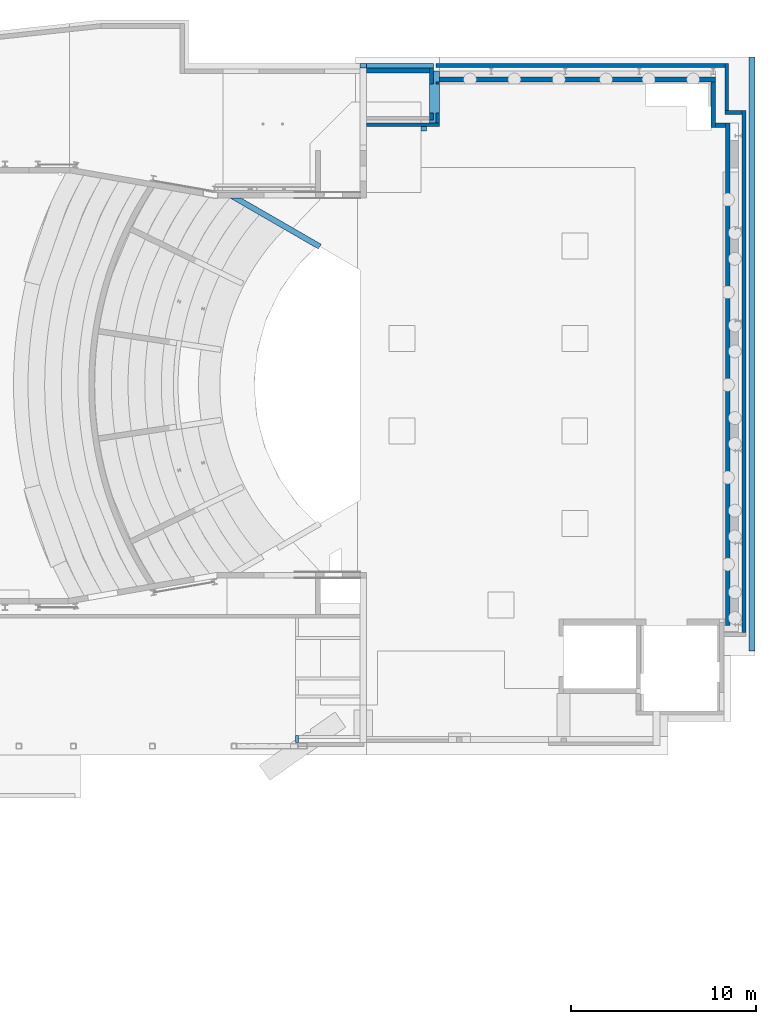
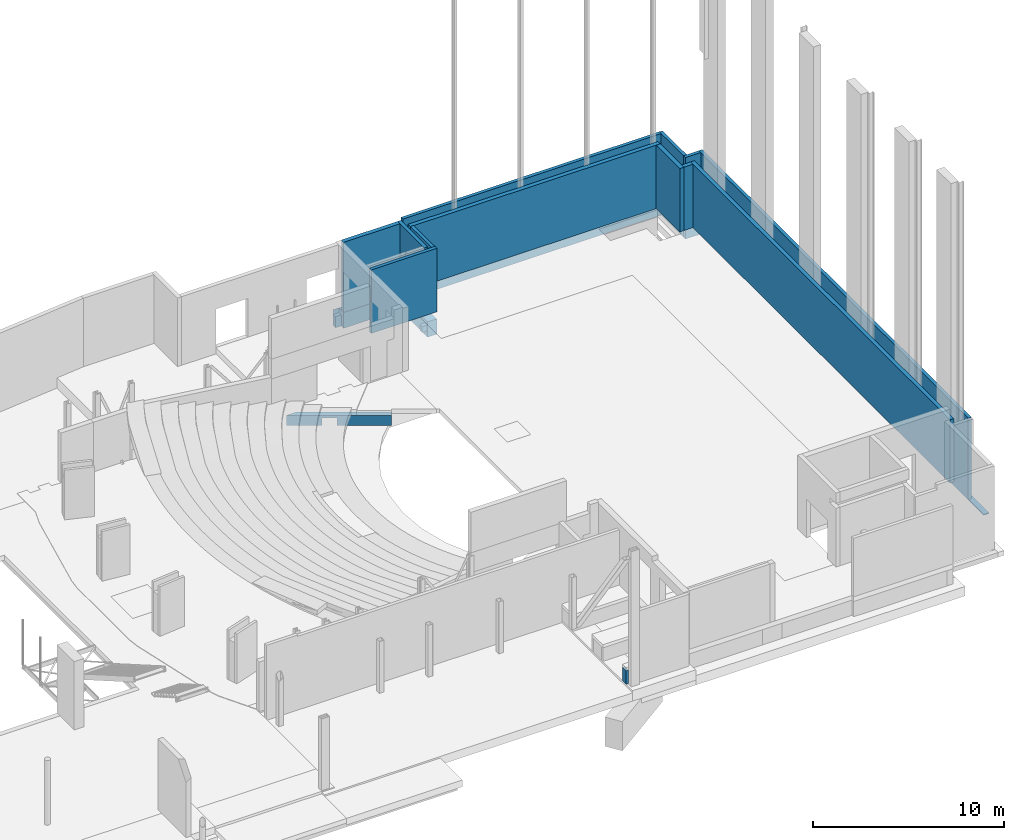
# One storey, part 28 of 34: 18 walls, 1 opening.
"""IFC2X3 building model written with IfcOpenShell, lengths in millimetres."""

from ifc_helpers import new_model, entity, si_unit, converted_unit, derived_unit, direction, frame, frame_2d, origin, place, context, subcontext, project, spatial, polyline, rectangle, extrude, clip, bounded_halfspace, faceted_brep, material, layer, layer_set, layer_usage, type_object, element, save


model = new_model("IFC2X3")

# Units and contexts
model_context = context("Model", 3, precision=0.01, world=origin(), true_north=direction((6.12303176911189e-17, 1.0)))
body_context = subcontext(model_context, "Body", "Model", "MODEL_VIEW")
ifc_project = project(units=[si_unit("LENGTHUNIT", "METRE", prefix="MILLI"), si_unit("AREAUNIT", "SQUARE_METRE", prefix="MILLI"), si_unit("VOLUMEUNIT", "CUBIC_METRE"), converted_unit("PLANEANGLEUNIT", "DEGREE", entity("IfcRatioMeasure", 0.0174532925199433), si_unit("PLANEANGLEUNIT", "RADIAN"), dimensions=[0, 0, 0, 0, 0, 0, 0]), si_unit("MASSUNIT", "GRAM", prefix="KILO"), derived_unit("MASSDENSITYUNIT", [(si_unit("MASSUNIT", "GRAM", prefix="KILO"), 1), (si_unit("LENGTHUNIT", "METRE"), -3)]), derived_unit("MOMENTOFINERTIAUNIT", [(si_unit("LENGTHUNIT", "METRE"), 4)]), si_unit("TIMEUNIT", "SECOND"), si_unit("FREQUENCYUNIT", "HERTZ"), si_unit("THERMODYNAMICTEMPERATUREUNIT", "DEGREE_CELSIUS"), derived_unit("THERMALTRANSMITTANCEUNIT", [(si_unit("MASSUNIT", "GRAM", prefix="KILO"), 1), (si_unit("THERMODYNAMICTEMPERATUREUNIT", "KELVIN"), -1), (si_unit("TIMEUNIT", "SECOND"), -3)]), derived_unit("VOLUMETRICFLOWRATEUNIT", [(si_unit("LENGTHUNIT", "METRE"), 3), (si_unit("TIMEUNIT", "SECOND"), -1)]), si_unit("ELECTRICCURRENTUNIT", "AMPERE"), si_unit("ELECTRICVOLTAGEUNIT", "VOLT"), si_unit("POWERUNIT", "WATT"), si_unit("FORCEUNIT", "NEWTON", prefix="KILO"), si_unit("ILLUMINANCEUNIT", "LUX"), si_unit("LUMINOUSFLUXUNIT", "LUMEN"), si_unit("LUMINOUSINTENSITYUNIT", "CANDELA"), derived_unit("USERDEFINED", [(si_unit("MASSUNIT", "GRAM", prefix="KILO"), -1), (si_unit("LENGTHUNIT", "METRE"), -2), (si_unit("TIMEUNIT", "SECOND"), 3), (si_unit("LUMINOUSFLUXUNIT", "LUMEN"), 1)]), derived_unit("LINEARVELOCITYUNIT", [(si_unit("LENGTHUNIT", "METRE"), 1), (si_unit("TIMEUNIT", "SECOND"), -1)]), si_unit("PRESSUREUNIT", "PASCAL"), derived_unit("USERDEFINED", [(si_unit("LENGTHUNIT", "METRE"), -2), (si_unit("MASSUNIT", "GRAM", prefix="KILO"), 1), (si_unit("TIMEUNIT", "SECOND"), -2)]), derived_unit("LINEARFORCEUNIT", [(si_unit("MASSUNIT", "GRAM", prefix="KILO"), 1), (si_unit("LENGTHUNIT", "METRE"), 1), (si_unit("TIMEUNIT", "SECOND"), -2), (si_unit("LENGTHUNIT", "METRE"), -1)]), derived_unit("PLANARFORCEUNIT", [(si_unit("MASSUNIT", "GRAM", prefix="KILO"), 1), (si_unit("LENGTHUNIT", "METRE"), 1), (si_unit("TIMEUNIT", "SECOND"), -2), (si_unit("LENGTHUNIT", "METRE"), -2)])], contexts=[model_context])

# Site, building, storey
site_placement = place(None, origin())
site = spatial("IfcSite", under=ifc_project, at=site_placement, Name="Theater aan de Parade", CompositionType="ELEMENT")
building_placement = place(site_placement, origin())
building = spatial("IfcBuilding", under=site, at=building_placement, Name="Theater aan de Parade", CompositionType="ELEMENT")
storey_placement = place(building_placement, frame((0.0, 0.0, 3.49116848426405e-09)))
storey = spatial("IfcBuildingStorey", under=building, at=storey_placement, Name="00 begane grond", CompositionType="ELEMENT", Elevation=3.49116848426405e-09)

# Walls
ifc_material_1 = material(Name="00_PBT_MAT_beton t.p.g.")
ifc_layer_1 = layer(ifc_material_1, 300.0)
ifc_layer_set_1 = layer_set([ifc_layer_1], Name="Basic Wall:28_PBT_WA_beton t.p.g._d=300_bestaand")
wall_type_1 = type_object("IfcWallType", Name="Basic Wall:28_PBT_WA_beton t.p.g._d=300_bestaand", PredefinedType="STANDARD", material=ifc_layer_set_1)
wall_1_placement = place(storey_placement, frame((65182.6488646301, 39924.6188359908, -60.0), z_axis=(0.0, 0.0, 1.0), x_axis=(-0.866064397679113, 0.499932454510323, 0.0)))
element("IfcWall", 1, at=wall_1_placement, inside=storey, type_object=wall_type_1, Name="Basic Wall:28_PBT_WA_beton t.p.g._d=300_bestaand", ObjectType="Basic Wall:28_PBT_WA_beton t.p.g._d=300_bestaand", context=body_context, shape_type="Brep", body=[
    faceted_brep([(0.0, -150.0, 0.0), (87.8390704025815, -150.0, 0.0), (2860.5432286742, -150.0, 0.0), (2860.5432286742, -150.0, 450.0), (3635.5432286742, -150.0, 450.0), (3635.5432286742, -150.0, 0.0), (4991.61733118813, -150.0, 0.0), (4991.61733118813, -150.0, 640.0), (0.0, -150.0, 640.0), (0.0, 150.0, 0.0), (0.0, 150.0, 640.0), (1835.83002603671, 150.0, 640.0), (1866.16081430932, 150.0, 640.0), (2115.50086229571, 150.0, 640.0), (5511.32617777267, 150.0, 640.0), (5511.32617777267, 150.0, 0.0), (3635.54322867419, 150.0, 0.0), (3635.54322867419, 150.0, 450.0), (2860.5432286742, 150.0, 450.0), (2860.54322867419, 150.0, 0.0), (5405.20215107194, 88.7403000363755, 0.0), (5405.20215107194, 88.7403000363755, 640.0), (0.0, -8.42838350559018, 640.0)], [[[0, 1, 2, 3, 4, 5, 6, 7, 8]], [[9, 10, 11, 12, 13, 14, 15, 16, 17, 18, 19]], [[6, 20, 15, 14, 21, 7]], [[2, 1, 0, 9, 19]], [[8, 7, 21, 14, 13, 12, 11, 10, 22]], [[0, 8, 22, 10, 9]], [[3, 2, 19, 18]], [[4, 3, 18, 17]], [[5, 4, 17, 16]], [[6, 5, 16, 15, 20]]]),
])
ifc_material_2 = material(Name="00_PBT_MAT_beton t.p.g._C30/37")
ifc_layer_2 = layer(ifc_material_2, 250.0)
ifc_layer_set_2 = layer_set([ifc_layer_2], Name="Basic Wall:28_PBT_WA_beton t.p.g._d=250_C30/37")
ifc_layer_usage_1 = layer_usage(ifc_layer_set_2, "AXIS2", "POSITIVE", -125.0)
wall_type_2 = type_object("IfcWallType", Name="Basic Wall:28_PBT_WA_beton t.p.g._d=250_C30/37", PredefinedType="STANDARD", material=ifc_layer_set_2)
wall_2_placement = place(storey_placement, frame((86555.1683175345, 48947.0, 880.0), z_axis=(0.0, 0.0, 1.0), x_axis=(-1.0, 0.0, 0.0)))
element("IfcWallStandardCase", 2, at=wall_2_placement, inside=storey, type_object=wall_type_2, material=ifc_layer_usage_1, Name="Basic Wall:28_PBT_WA_beton t.p.g._d=250_C30/37", ObjectType="Basic Wall:28_PBT_WA_beton t.p.g._d=250_C30/37", context=body_context, shape_type="SweptSolid", body=[
    extrude(rectangle(XDim=15098.1683175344, YDim=249.999999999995, at=frame_2d((7549.08415876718, -5.47117906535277e-13), x_axis=(-1.0, 0.0))), origin(), (0.0, 0.0, 1.0), 4050.0000000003),
])
ifc_layer_usage_2 = layer_usage(ifc_layer_set_2, "AXIS2", "NEGATIVE", 125.0)
wall_3_placement = place(storey_placement, frame((86430.1683175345, 48822.0, 880.0), z_axis=(0.0, 0.0, 1.0), x_axis=(0.0, -1.0, 0.0)))
element("IfcWallStandardCase", 3, at=wall_3_placement, inside=storey, type_object=wall_type_2, material=ifc_layer_usage_2, Name="Basic Wall:28_PBT_WA_beton t.p.g._d=250_C30/37", ObjectType="Basic Wall:28_PBT_WA_beton t.p.g._d=250_C30/37", context=body_context, shape_type="SweptSolid", body=[
    extrude(rectangle(XDim=2460.12765932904, YDim=250.000000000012, at=frame_2d((1230.06382966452, 2.62900812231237e-13), x_axis=(-1.0, 0.0))), origin(), (0.0, 0.0, 1.0), 4050.0000000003),
])
ifc_layer_usage_3 = layer_usage(ifc_layer_set_2, "AXIS2", "POSITIVE", -125.0)
wall_4_placement = place(storey_placement, frame((87096.0, 46486.8723406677, 880.0), z_axis=(0.0, 0.0, 1.0), x_axis=(-1.0, 0.0, 0.0)))
element("IfcWallStandardCase", 4, at=wall_4_placement, inside=storey, type_object=wall_type_2, material=ifc_layer_usage_3, Name="Basic Wall:28_PBT_WA_beton t.p.g._d=250_C30/37", ObjectType="Basic Wall:28_PBT_WA_beton t.p.g._d=250_C30/37", context=body_context, shape_type="SweptSolid", body=[
    extrude(rectangle(XDim=540.831682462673, YDim=249.999999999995, at=frame_2d((270.415841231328, -3.62376795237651e-13), x_axis=(-1.0, 0.0))), origin(), (0.0, 0.0, 1.0), 4050.0000000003),
])
ifc_layer_usage_4 = layer_usage(ifc_layer_set_2, "AXIS2", "NEGATIVE", 125.0)
wall_5_placement = place(storey_placement, frame((71107.1334380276, 49437.0, 460.0), z_axis=(0.0, 0.0, 1.0), x_axis=(-1.0, 0.0, 0.0)))
element("IfcWallStandardCase", 5, at=wall_5_placement, inside=storey, type_object=wall_type_2, material=ifc_layer_usage_4, Name="Basic Wall:28_PBT_WA_beton t.p.g._d=250_C30/37", ObjectType="Basic Wall:28_PBT_WA_beton t.p.g._d=250_C30/37", context=body_context, shape_type="SweptSolid", body=[
    extrude(rectangle(XDim=3400.87733706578, YDim=249.999999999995, at=frame_2d((1700.43866853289, -1.61293201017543e-12), x_axis=(-1.0, 0.0))), origin(), (0.0, 0.0, 1.0), 4479.99999999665),
])
ifc_layer_3 = layer(ifc_material_2, 200.0)
ifc_layer_set_3 = layer_set([ifc_layer_3], Name="Basic Wall:28_PBT_WA_beton t.p.g._d=200_C30/37")
wall_type_3 = type_object("IfcWallType", Name="Basic Wall:28_PBT_WA_beton t.p.g._d=200_C30/37", PredefinedType="STANDARD", material=ifc_layer_set_3)
wall_6_placement = place(storey_placement, frame((71207.1462854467, 46761.8718368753, 880.0), z_axis=(0.0, 0.0, 1.0), x_axis=(-5.03794986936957e-06, 1.0, 0.0)))
element("IfcWall", 6, at=wall_6_placement, inside=storey, type_object=wall_type_3, Name="Basic Wall:28_PBT_WA_beton t.p.g._d=200_C30/37", ObjectType="Basic Wall:28_PBT_WA_beton t.p.g._d=200_C30/37", context=body_context, shape_type="Brep", body=[
    faceted_brep([(2800.12765936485, -100.0, 4060.0), (0.0, -100.0, 4060.0), (0.0, -100.0, 0.0), (375.0, -100.0, 0.0), (375.0, -100.0, 2620.0), (1955.0, -100.0, 2620.0), (1955.0, -100.0, 0.0), (2650.12765936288, -100.0, 0.0), (2800.12765936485, -100.0, 0.0), (0.00100758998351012, 100.0, 4060.0), (200.001007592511, 100.0, 4060.0), (2550.12866695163, 100.0, 4060.0), (2800.12866695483, 100.0, 4060.0), (2800.12866695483, 100.0, 0.0), (1955.0, 100.0, 0.0), (1955.0, 100.0, 2620.0), (375.0, 100.0, 2620.0), (375.0, 100.0, 0.0), (200.001008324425, 100.0, 0.0), (0.00100758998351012, 100.0, 0.0)], [[[0, 1, 2, 3, 4, 5, 6, 7, 8]], [[9, 10, 11, 12, 13, 14, 15, 16, 17, 18, 19]], [[1, 0, 12, 11, 10, 9]], [[2, 1, 9, 19]], [[0, 8, 13, 12]], [[2, 19, 18, 17, 3]], [[5, 15, 14, 6]], [[16, 4, 3, 17]], [[15, 5, 4, 16]], [[8, 7, 6, 14, 13]]]),
])
ifc_layer_usage_5 = layer_usage(ifc_layer_set_3, "AXIS2", "POSITIVE", -100.0)
wall_7_placement = place(storey_placement, frame((71657.0, 46511.8723406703, 880.0), z_axis=(0.0, 0.0, 1.0), x_axis=(-1.0, 0.0, 0.0)))
element("IfcWallStandardCase", 7, at=wall_7_placement, inside=storey, type_object=wall_type_3, material=ifc_layer_usage_5, Name="Basic Wall:28_PBT_WA_beton t.p.g._d=200_C30/37", ObjectType="Basic Wall:28_PBT_WA_beton t.p.g._d=200_C30/37", context=body_context, shape_type="Clipping", body=[
    clip(extrude(rectangle(XDim=3950.74389903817, YDim=200.000000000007, at=frame_2d((1975.37194951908, -4.83169060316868e-13), x_axis=(-1.0, 0.0))), origin(), (0.0, 0.0, 1.0), 4059.99999999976), bounded_halfspace(frame((1017.0, -100.0, 0.0), z_axis=(0.0, 0.0, 1.0), x_axis=(0.0, 1.0, 0.0)), True, frame((1017.0, -100.0, 0.0)), polyline([(0.0, 0.0), (0.0, 200.0), (-1017.0, 200.0), (-1017.0, 0.0), (-817.0, 0.0), (0.0, 0.0)]))),
])

# Wall, opening
ifc_layer_usage_6 = layer_usage(ifc_layer_set_3, "AXIS2", "NEGATIVE", 100.0)
wall_8_placement = place(storey_placement, frame((71557.0, 46611.8723406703, 880.0), z_axis=(0.0, 0.0, 1.0), x_axis=(0.0, 1.0, 0.0)))
wall_8 = element("IfcWallStandardCase", 8, at=wall_8_placement, inside=storey, type_object=wall_type_3, material=ifc_layer_usage_6, Name="Basic Wall:28_PBT_WA_beton t.p.g._d=200_C30/37", ObjectType="Basic Wall:28_PBT_WA_beton t.p.g._d=200_C30/37", context=body_context, shape_type="SweptSolid", body=[
    extrude(rectangle(XDim=2210.12765932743, YDim=200.000000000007, at=frame_2d((1105.06382966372, 1.35713662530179e-12), x_axis=(-1.0, 0.0))), origin(), (0.0, 0.0, 1.0), 4060.0000000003),
])
opening_placement = place(wall_8_placement, origin())
element("IfcOpeningElement", 9, at=opening_placement, cuts=wall_8, Name="Basic Wall:28_PBT_WA_beton t.p.g._d=200_C30/37", ObjectType="Opening", context=body_context, shape_type="SweptSolid", body=[
    extrude(rectangle(XDim=2619.99999999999, YDim=1580.0, at=frame_2d((0.0, 0.0), x_axis=(0.0, 1.0))), frame((1315.00075496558, -100.0, 1310.0), z_axis=(0.0, 1.0, 0.0), x_axis=(1.0, 0.0, 0.0)), (0.0, 0.0, 1.0), 200.000000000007),
])

# Walls
ifc_material_3 = material(Name="00_PBT_MAT_beton prefab")
ifc_layer_4 = layer(ifc_material_3, 200.0)
ifc_layer_set_4 = layer_set([ifc_layer_4], Name="Basic Wall:28_PBT_WA_beton prefab_d=200")
ifc_layer_usage_7 = layer_usage(ifc_layer_set_4, "AXIS2", "NEGATIVE", 100.0)
wall_type_4 = type_object("IfcWallType", Name="Basic Wall:28_PBT_WA_beton prefab_d=200", PredefinedType="STANDARD", material=ifc_layer_set_4)
wall_9_placement = place(storey_placement, frame((88086.0, 47270.8149236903, -270.0), z_axis=(0.0, 0.0, 1.0), x_axis=(0.0, -1.0, 0.0)))
element("IfcWallStandardCase", 10, at=wall_9_placement, inside=storey, type_object=wall_type_4, material=ifc_layer_usage_7, Name="Basic Wall:28_PBT_WA_beton prefab_d=200", ObjectType="Basic Wall:28_PBT_WA_beton prefab_d=200", context=body_context, shape_type="SweptSolid", body=[
    extrude(rectangle(XDim=28180.815012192, YDim=199.999999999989, at=frame_2d((14090.407506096, -2.63611354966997e-12), x_axis=(-1.0, 0.0))), origin(), (0.0, 0.0, 1.0), 5209.99999999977),
])
ifc_layer_usage_8 = layer_usage(ifc_layer_set_4, "AXIS2", "POSITIVE", -100.0)
wall_10_placement = place(storey_placement, frame((87986.0, 47170.8149236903, -270.0), z_axis=(0.0, 0.0, 1.0), x_axis=(-1.0, 0.0, 0.0)))
element("IfcWallStandardCase", 11, at=wall_10_placement, inside=storey, type_object=wall_type_4, material=ifc_layer_usage_8, Name="Basic Wall:28_PBT_WA_beton prefab_d=200", ObjectType="Basic Wall:28_PBT_WA_beton prefab_d=200", context=body_context, shape_type="SweptSolid", body=[
    extrude(rectangle(XDim=931.00000000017, YDim=200.000000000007, at=frame_2d((465.500000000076, -1.11555209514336e-12), x_axis=(-1.0, 0.0))), origin(), (0.0, 0.0, 1.0), 5209.99999999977),
])
ifc_layer_usage_9 = layer_usage(ifc_layer_set_4, "AXIS2", "NEGATIVE", 100.0)
wall_11_placement = place(storey_placement, frame((87155.0, 49802.0, -270.0), z_axis=(0.0, 0.0, 1.0), x_axis=(0.0, -1.0, 0.0)))
element("IfcWallStandardCase", 12, at=wall_11_placement, inside=storey, type_object=wall_type_4, material=ifc_layer_usage_9, Name="Basic Wall:28_PBT_WA_beton prefab_d=200", ObjectType="Basic Wall:28_PBT_WA_beton prefab_d=200", context=body_context, shape_type="Clipping", body=[
    clip(extrude(rectangle(XDim=2531.18507630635, YDim=199.999999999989, at=frame_2d((1265.59253815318, 6.68620714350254e-12), x_axis=(-1.0, 0.0))), origin(), (0.0, 0.0, 1.0), 5199.99999999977), bounded_halfspace(frame((0.0, -100.0, 5200.0), z_axis=(0.0, 0.0, -1.0), x_axis=(0.0, 1.0, 0.0)), True, frame((0.0, -100.0, 5200.0), z_axis=(0.0, 0.0, -1.0), x_axis=(0.0, 1.0, 0.0)), polyline([(0.0, 0.0), (200.0, 0.0), (200.0, 2531.18507630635), (0.0, 2531.18507630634), (0.0, 0.0)]))),
])
ifc_layer_usage_10 = layer_usage(ifc_layer_set_4, "AXIS2", "POSITIVE", -100.0)
wall_12_placement = place(storey_placement, frame((87055.0, 49702.0, -270.0), z_axis=(0.0, 0.0, 1.0), x_axis=(-1.0, 0.0, 0.0)))
element("IfcWallStandardCase", 13, at=wall_12_placement, inside=storey, type_object=wall_type_4, material=ifc_layer_usage_10, Name="Basic Wall:28_PBT_WA_beton prefab_d=200", ObjectType="Basic Wall:28_PBT_WA_beton prefab_d=200", context=body_context, shape_type="SweptSolid", body=[
    extrude(rectangle(XDim=15598.582194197, YDim=200.000000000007, at=frame_2d((7799.29109709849, -1.96109795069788e-12), x_axis=(-1.0, 0.0))), origin(), (0.0, 0.0, 1.0), 5209.99999999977),
])
ifc_material_4 = material(Name="00_PBT_MAT_beton t.p.g._C40/50")
ifc_layer_5 = layer(ifc_material_4, 230.0)
ifc_layer_set_5 = layer_set([ifc_layer_5], Name="Basic Wall:28_PBT_WA_beton t.p.g._d=230_C40/50")
ifc_layer_usage_11 = layer_usage(ifc_layer_set_5, "AXIS2", "NEGATIVE", 115.0)
wall_type_5 = type_object("IfcWallType", Name="Basic Wall:28_PBT_WA_beton t.p.g._d=230_C40/50", PredefinedType="STANDARD", material=ifc_layer_set_5)
wall_13_placement = place(storey_placement, frame((87211.0, 46611.8723406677, 880.0), z_axis=(0.0, 0.0, 1.0), x_axis=(0.0, -1.0, 0.0)))
element("IfcWallStandardCase", 14, at=wall_13_placement, inside=storey, type_object=wall_type_5, material=ifc_layer_usage_11, Name="Basic Wall:28_PBT_WA_beton t.p.g._d=230_C40/50", ObjectType="Basic Wall:28_PBT_WA_beton t.p.g._d=230_C40/50", context=body_context, shape_type="SweptSolid", body=[
    extrude(rectangle(XDim=27151.8720971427, YDim=230.000000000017, at=frame_2d((13575.9360485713, 3.41060513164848e-12), x_axis=(-1.0, 0.0))), origin(), (0.0, 0.0, 1.0), 4050.0000000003),
])
ifc_layer_6 = layer(ifc_material_2, 300.0)
ifc_layer_set_6 = layer_set([ifc_layer_6], Name="Basic Wall:16_PBT_WA_beton t.p.g._d=300_C30/37")
ifc_layer_usage_12 = layer_usage(ifc_layer_set_6, "AXIS2", "NEGATIVE", 150.0)
wall_type_6 = type_object("IfcWallType", Name="Basic Wall:16_PBT_WA_beton t.p.g._d=300_C30/37", PredefinedType="STANDARD", material=ifc_layer_set_6)
wall_14_placement = place(storey_placement, frame((70790.0, 46176.8723406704, 47.0), z_axis=(0.0, 0.0, 1.0), x_axis=(0.0, 1.0, 0.0)))
element("IfcWallStandardCase", 15, at=wall_14_placement, inside=storey, type_object=wall_type_6, material=ifc_layer_usage_12, Name="Basic Wall:16_PBT_WA_beton t.p.g._d=300_C30/37", ObjectType="Basic Wall:16_PBT_WA_beton t.p.g._d=300_C30/37", context=body_context, shape_type="SweptSolid", body=[
    extrude(rectangle(XDim=234.998615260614, YDim=300.000000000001, at=frame_2d((117.499307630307, -5.82645043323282e-13), x_axis=(-1.0, 0.0))), origin(), (0.0, 0.0, 1.0), 383.000000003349),
])
ifc_layer_7 = layer(ifc_material_2, 150.0)
ifc_layer_set_7 = layer_set([ifc_layer_7], Name="Basic Wall:28_PBT_WA_beton t.p.g._d=150_C30/37")
ifc_layer_usage_13 = layer_usage(ifc_layer_set_7, "AXIS2", "NEGATIVE", 75.0)
wall_type_7 = type_object("IfcWallType", Name="Basic Wall:28_PBT_WA_beton t.p.g._d=150_C30/37", PredefinedType="STANDARD", material=ifc_layer_set_7)
wall_15_placement = place(storey_placement, frame((63955.2595511, 13150.0, -20.0), z_axis=(0.0, 0.0, 1.0), x_axis=(0.0, 1.0, 0.0)))
element("IfcWallStandardCase", 16, at=wall_15_placement, inside=storey, type_object=wall_type_7, material=ifc_layer_usage_13, Name="Basic Wall:28_PBT_WA_beton t.p.g._d=150_C30/37", ObjectType="Basic Wall:28_PBT_WA_beton t.p.g._d=150_C30/37", context=body_context, shape_type="SweptSolid", body=[
    extrude(rectangle(XDim=375.762827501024, YDim=150.000000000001, at=frame_2d((187.881413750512, -3.05533376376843e-13), x_axis=(-1.0, 0.0))), origin(), (0.0, 0.0, 1.0), 860.000000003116),
])
ifc_layer_8 = layer(ifc_material_2, 320.0)
ifc_layer_set_8 = layer_set([ifc_layer_8], Name="Basic Wall:16_PBT_WA_beton t.p.g._d=320_C30/37")
ifc_layer_usage_14 = layer_usage(ifc_layer_set_8, "AXIS2", "POSITIVE", -160.0)
wall_type_8 = type_object("IfcWallType", Name="Basic Wall:16_PBT_WA_beton t.p.g._d=320_C30/37", PredefinedType="STANDARD", material=ifc_layer_set_8)
wall_16_placement = place(storey_placement, frame((88520.0, 18105.0, -800.0), z_axis=(0.0, 0.0, 1.0), x_axis=(0.0, 1.0, 0.0)))
element("IfcWallStandardCase", 17, at=wall_16_placement, inside=storey, type_object=wall_type_8, material=ifc_layer_usage_14, Name="Basic Wall:16_PBT_WA_beton t.p.g._d=320_C30/37", ObjectType="Basic Wall:16_PBT_WA_beton t.p.g._d=320_C30/37", context=body_context, shape_type="SweptSolid", body=[
    extrude(rectangle(XDim=32065.0000000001, YDim=319.999999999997, at=frame_2d((16032.5, -2.06057393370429e-12), x_axis=(-1.0, 0.0))), origin(), (0.0, 0.0, 1.0), 60.0000000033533),
])
ifc_layer_9 = layer(ifc_material_2, 550.0)
ifc_layer_set_9 = layer_set([ifc_layer_9], Name="Basic Wall:28_PBT_WA_beton t.p.g._d=550_C30/37")
ifc_layer_usage_15 = layer_usage(ifc_layer_set_9, "AXIS2", "NEGATIVE", 275.0)
wall_type_9 = type_object("IfcWallType", Name="Basic Wall:28_PBT_WA_beton t.p.g._d=550_C30/37", PredefinedType="STANDARD", material=ifc_layer_set_9)
wall_17_placement = place(storey_placement, frame((71382.0, 46411.8723406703, -550.0), z_axis=(0.0, 0.0, 1.0), x_axis=(0.0, 1.0, 0.0)))
element("IfcWallStandardCase", 18, at=wall_17_placement, inside=storey, type_object=wall_type_9, material=ifc_layer_usage_15, Name="Basic Wall:28_PBT_WA_beton t.p.g._d=550_C30/37", ObjectType="Basic Wall:28_PBT_WA_beton t.p.g._d=550_C30/37", context=body_context, shape_type="SweptSolid", body=[
    extrude(rectangle(XDim=3000.12904480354, YDim=549.999999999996, at=frame_2d((1500.06452240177, 1.73372427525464e-12), x_axis=(-1.0, 0.0))), origin(), (0.0, 0.0, 1.0), 980.0),
])
ifc_layer_10 = layer(ifc_material_2, 500.0)
ifc_layer_set_10 = layer_set([ifc_layer_10], Name="Basic Wall:16_PBT_WA_beton t.p.g._d=500_C30/37")
ifc_layer_usage_16 = layer_usage(ifc_layer_set_10, "AXIS2", "POSITIVE", -250.0)
wall_type_10 = type_object("IfcWallType", Name="Basic Wall:16_PBT_WA_beton t.p.g._d=500_C30/37", PredefinedType="STANDARD", material=ifc_layer_set_10)
wall_18_placement = place(storey_placement, frame((67356.256100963, 49562.0, -550.0)))
element("IfcWallStandardCase", 19, at=wall_18_placement, inside=storey, type_object=wall_type_10, material=ifc_layer_usage_16, Name="Basic Wall:16_PBT_WA_beton t.p.g._d=500_C30/37", ObjectType="Basic Wall:16_PBT_WA_beton t.p.g._d=500_C30/37", context=body_context, shape_type="Clipping", body=[
    clip(clip(clip(clip(clip(clip(clip(clip(extrude(rectangle(XDim=3950.87607757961, YDim=500.000000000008, at=frame_2d((1975.43803878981, -3.83693077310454e-12), x_axis=(-1.0, 0.0))), origin(), (0.0, 0.0, 1.0), 1010.0), bounded_halfspace(frame((350.0, -250.0, 3.11615320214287e-09), z_axis=(1.0, 0.0, 0.0), x_axis=(0.0, 1.0, 0.0)), True, frame((350.0, -250.0, 3.11615320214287e-09), z_axis=(1.0, 0.0, 0.0), x_axis=(0.0, 1.0, 0.0)), polyline([(0.0, 0.0), (250.0, -3.11615320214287e-09), (250.0, 710.0), (489.564484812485, 710.0), (489.564484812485, 1010.0), (250.0, 1010.0), (199.997990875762, 1010.0), (0.0, 1010.0), (0.0, 0.0)]))), bounded_halfspace(frame((0.0, 0.0, 3.11615320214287e-09), z_axis=(0.0, 1.0, 0.0), x_axis=(-1.0, 0.0, 0.0)), True, frame((0.0, 0.0, 3.11615320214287e-09), z_axis=(0.0, 1.0, 0.0), x_axis=(-1.0, 0.0, 0.0)), polyline([(0.0, 0.0), (0.0, 710.0), (-350.0, 710.0), (-350.0, 0.0), (0.0, 0.0)]))), bounded_halfspace(frame((350.0, 239.56448481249, 710.0), z_axis=(0.0, 0.0, -1.0), x_axis=(0.0, -1.0, 0.0)), True, frame((350.0, 239.56448481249, 710.0), z_axis=(0.0, 0.0, -1.0), x_axis=(0.0, -1.0, 0.0)), polyline([(0.0, 0.0), (239.56448481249, -1.2483383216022e-09), (239.564484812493, 350.0), (0.0, 350.0), (0.0, 0.0)]))), bounded_halfspace(frame((350.0, 239.56448481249, 710.0), z_axis=(0.0, 1.0, 0.0), x_axis=(0.0, 0.0, 1.0)), True, frame((350.0, 239.56448481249, 710.0), z_axis=(0.0, 1.0, 0.0), x_axis=(0.0, 0.0, 1.0)), polyline([(0.0, 0.0), (0.0, -350.0), (300.0, -350.0), (300.0, 0.0), (0.0, 0.0)]))), bounded_halfspace(frame((3750.74389903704, -149.998614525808, 0.0), z_axis=(-1.0, 0.0, 0.0), x_axis=(0.0, -1.0, 0.0)), True, frame((3750.74389903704, -149.998614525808, 0.0), z_axis=(-1.0, 0.0, 0.0), x_axis=(0.0, -1.0, 0.0)), polyline([(0.0, 0.0), (100.001385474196, 3.11615320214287e-09), (100.001385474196, 1010.0), (-149.998614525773, 1010.0), (-149.998614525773, 980.0), (0.0, 980.0), (0.0, 0.0)]))), bounded_halfspace(frame((3750.74389903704, -149.998614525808, 980.0), z_axis=(0.0, 1.0, 0.0), x_axis=(-1.0, 0.0, 0.0)), True, frame((3750.74389903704, -149.998614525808, 980.0), z_axis=(0.0, 1.0, 0.0), x_axis=(-1.0, 0.0, 0.0)), polyline([(0.0, 0.0), (-200.132178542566, 0.0), (-200.132178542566, -980.0), (0.0, -980.0), (0.0, 0.0)]))), bounded_halfspace(frame((3950.87607757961, 0.0, 980.0), z_axis=(0.0, 0.0, -1.0), x_axis=(1.0, 0.0, 0.0)), True, frame((3950.87607757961, 0.0, 980.0), z_axis=(0.0, 0.0, -1.0), x_axis=(1.0, 0.0, 0.0)), polyline([(0.0, 0.0), (0.0, 149.998614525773), (-200.132178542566, 149.998614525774), (-200.132178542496, 0.0), (0.0, 0.0)]))), bounded_halfspace(frame((3750.74389903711, 0.0, 980.0), z_axis=(0.0, 1.0, 0.0), x_axis=(0.0, 0.0, 1.0)), True, frame((3750.74389903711, 0.0, 980.0), z_axis=(0.0, 1.0, 0.0), x_axis=(0.0, 0.0, 1.0)), polyline([(0.0, 0.0), (30.0, 0.0), (30.0, 200.132178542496), (0.0, 200.132178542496), (0.0, 0.0)]))),
])

save(model, "model.ifc")
